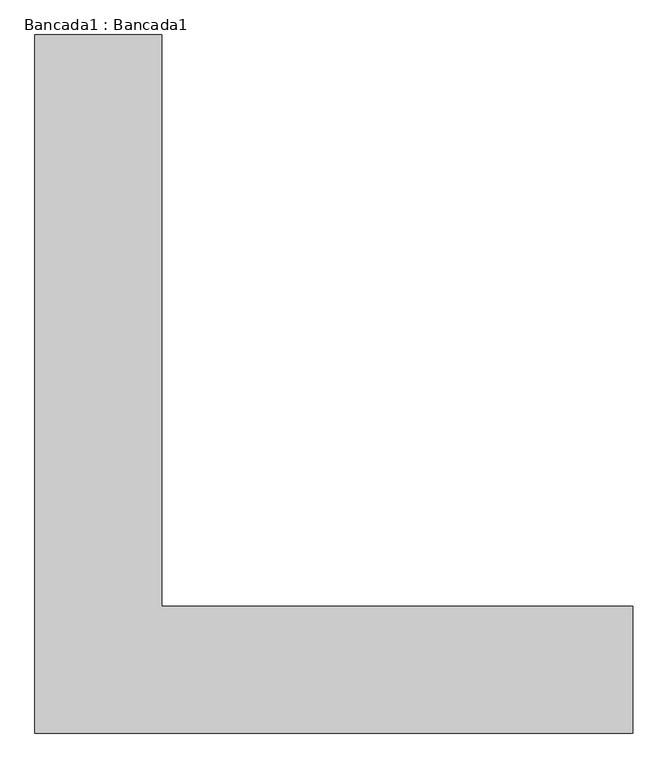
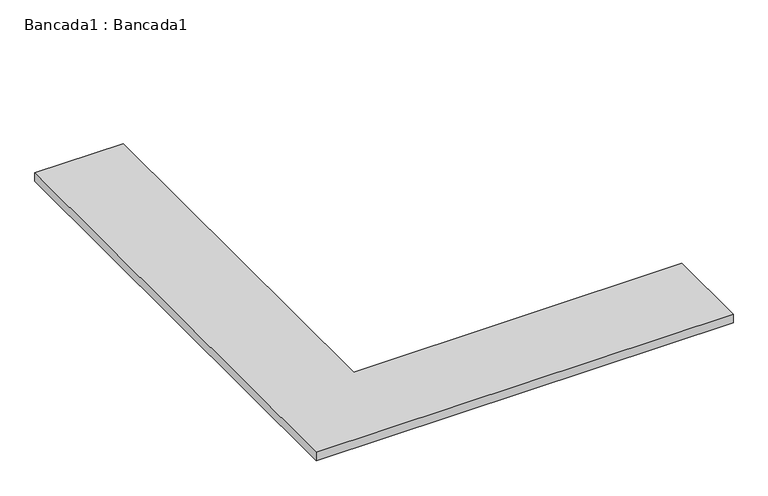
"""IFC4 building model written with IfcOpenShell, lengths in millimetres: furniture geometry, Bancada1 : Bancada1."""

from ifc_helpers import new_model, si_unit, frame, origin, place, context, project, spatial, polyline, outline, extrude, source, transform, mapped, element, save


def bancada1_bancada1_bc87f3cf(model_context):
    return source(origin(), model_context, "Body", "SweptSolid", [
        extrude(outline(polyline([(-3242.3834094, -4667.0637549), (-2642.3834094, -4667.0637549), (-2642.3834094, -7367.0637549), (-417.3834094, -7367.0637549), (-417.3834094, -7967.0637549), (-3242.3834094, -7967.0637549), (-3242.3834094, -4667.0637549)])), frame((0.0, 0.0, 840.0), z_axis=(0.0, 0.0, 1.0), x_axis=(1.0, 0.0, 0.0)), (0.0, 0.0, 1.0), 60.0),
    ])


if __name__ == "__main__":
    model = new_model("IFC4")
    model_context = context("Model", 3, world=origin())
    ifc_project = project(units=[si_unit("LENGTHUNIT", "METRE", prefix="MILLI")], contexts=[model_context])
    site = spatial("IfcSite", under=ifc_project)
    building = spatial("IfcBuilding", under=site)
    placement = place(None, origin())
    bancada1_bancada1_shape = bancada1_bancada1_bc87f3cf(model_context)
    element("IfcFurniture", 1, ObjectType="Bancada1 : Bancada1", at=placement, inside=building, context=model_context, shape_type="MappedRepresentation", body=[
        mapped(bancada1_bancada1_shape, transform((0.0, 0.0, 0.0), x_axis=(1.0, 0.0, 0.0), y_axis=(0.0, 1.0, 0.0), z_axis=(0.0, 0.0, 1.0))),
    ])
    save(model, "model.ifc")
